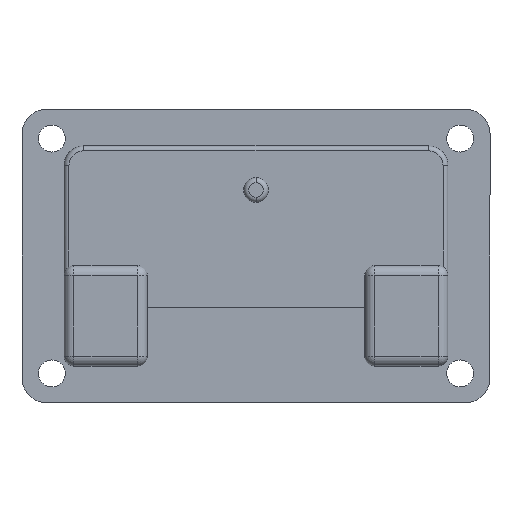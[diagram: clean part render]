
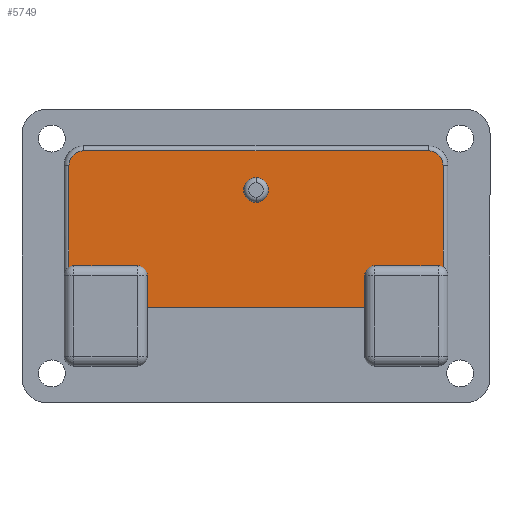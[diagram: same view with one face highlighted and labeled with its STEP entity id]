
A CAD part, front view. The second image highlights one B-rep face of the part: STEP entity #5749.
In plain terms, the highlighted planar face has unit normal (0, -1, 0).
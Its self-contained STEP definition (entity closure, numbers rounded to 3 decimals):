
#3 = VERTEX_POINT ( 'NONE', #8929 ) ;
#4 = LINE ( 'NONE', #9877, #3733 ) ;
#15 = VECTOR ( 'NONE', #4053, 1000. ) ;
#21 = ORIENTED_EDGE ( 'NONE', *, *, #3438, .F. ) ;
#65 = CARTESIAN_POINT ( 'NONE',  ( 35.25, -5.5, 18.5 ) ) ;
#144 = DIRECTION ( 'NONE',  ( 0., 0., 1. ) ) ;
#195 = AXIS2_PLACEMENT_3D ( 'NONE', #4791, #1677, #712 ) ;
#283 = ORIENTED_EDGE ( 'NONE', *, *, #12238, .T. ) ;
#355 = DIRECTION ( 'NONE',  ( 0., 0., 1. ) ) ;
#378 = CARTESIAN_POINT ( 'NONE',  ( 38.25, -5.5, 18.5 ) ) ;
#418 = ORIENTED_EDGE ( 'NONE', *, *, #1695, .T. ) ;
#582 = CARTESIAN_POINT ( 'NONE',  ( -35.25, -5.5, 18.5 ) ) ;
#607 = CARTESIAN_POINT ( 'NONE',  ( 37.25, -5.5, -2. ) ) ;
#712 = DIRECTION ( 'NONE',  ( 0., 0., 1. ) ) ;
#846 = VECTOR ( 'NONE', #5961, 1000. ) ;
#948 = EDGE_CURVE ( 'NONE', #5834, #3, #9982, .T. ) ;
#1011 = DIRECTION ( 'NONE',  ( 0., 0., 1. ) ) ;
#1014 = DIRECTION ( 'NONE',  ( 0., 1., 0. ) ) ;
#1220 = DIRECTION ( 'NONE',  ( -1., 0., 0. ) ) ;
#1290 = CARTESIAN_POINT ( 'NONE',  ( -35.25, -5.5, 21.5 ) ) ;
#1371 = DIRECTION ( 'NONE',  ( 0., 0., 1. ) ) ;
#1453 = CIRCLE ( 'NONE', #195, 2. ) ;
#1512 = EDGE_CURVE ( 'NONE', #11085, #11320, #5589, .T. ) ;
#1618 = EDGE_CURVE ( 'NONE', #3101, #3196, #10120, .T. ) ;
#1677 = DIRECTION ( 'NONE',  ( 0., 1., 0. ) ) ;
#1695 = EDGE_CURVE ( 'NONE', #10285, #6065, #4, .T. ) ;
#1759 = EDGE_CURVE ( 'NONE', #3196, #11085, #10068, .T. ) ;
#1819 = ORIENTED_EDGE ( 'NONE', *, *, #3035, .F. ) ;
#1960 = ORIENTED_EDGE ( 'NONE', *, *, #3697, .T. ) ;
#2234 = CARTESIAN_POINT ( 'NONE',  ( 0., -5.5, 11. ) ) ;
#2519 = DIRECTION ( 'NONE',  ( 0., 0., 1. ) ) ;
#2533 = FACE_OUTER_BOUND ( 'NONE', #12682, .T. ) ;
#2662 = VERTEX_POINT ( 'NONE', #2234 ) ;
#2711 = AXIS2_PLACEMENT_3D ( 'NONE', #8148, #9119, #1371 ) ;
#2913 = ORIENTED_EDGE ( 'NONE', *, *, #7745, .T. ) ;
#3035 = EDGE_CURVE ( 'NONE', #5834, #6065, #5945, .T. ) ;
#3101 = VERTEX_POINT ( 'NONE', #378 ) ;
#3119 = CIRCLE ( 'NONE', #2711, 2.5 ) ;
#3134 = CARTESIAN_POINT ( 'NONE',  ( 22.25, -5.5, 0. ) ) ;
#3162 = EDGE_CURVE ( 'NONE', #3, #6132, #7633, .T. ) ;
#3196 = VERTEX_POINT ( 'NONE', #9368 ) ;
#3324 = AXIS2_PLACEMENT_3D ( 'NONE', #65, #7817, #9035 ) ;
#3438 = EDGE_CURVE ( 'NONE', #2662, #9790, #3119, .T. ) ;
#3454 = ORIENTED_EDGE ( 'NONE', *, *, #948, .T. ) ;
#3568 = AXIS2_PLACEMENT_3D ( 'NONE', #9631, #6469, #3622 ) ;
#3605 = CARTESIAN_POINT ( 'NONE',  ( 24.25, -5.5, -2. ) ) ;
#3622 = DIRECTION ( 'NONE',  ( 0., 0., 1. ) ) ;
#3697 = EDGE_CURVE ( 'NONE', #6057, #8745, #5653, .T. ) ;
#3733 = VECTOR ( 'NONE', #10005, 1000. ) ;
#3940 = EDGE_CURVE ( 'NONE', #9790, #2662, #6424, .T. ) ;
#4048 = AXIS2_PLACEMENT_3D ( 'NONE', #6113, #6047, #1011 ) ;
#4053 = DIRECTION ( 'NONE',  ( 1., 0., 0. ) ) ;
#4112 = CARTESIAN_POINT ( 'NONE',  ( 0., -5.5, -2. ) ) ;
#4124 = CARTESIAN_POINT ( 'NONE',  ( -37.25, -5.5, -2. ) ) ;
#4200 = EDGE_CURVE ( 'NONE', #6132, #5055, #7165, .T. ) ;
#4356 = ORIENTED_EDGE ( 'NONE', *, *, #3940, .F. ) ;
#4767 = EDGE_CURVE ( 'NONE', #8745, #10285, #9624, .T. ) ;
#4790 = ORIENTED_EDGE ( 'NONE', *, *, #9020, .T. ) ;
#4791 = CARTESIAN_POINT ( 'NONE',  ( -37.25, -5.5, -4. ) ) ;
#4868 = LINE ( 'NONE', #5893, #11954 ) ;
#5055 = VERTEX_POINT ( 'NONE', #607 ) ;
#5170 = CIRCLE ( 'NONE', #11760, 2. ) ;
#5303 = CARTESIAN_POINT ( 'NONE',  ( -22.25, -5.5, -10.5 ) ) ;
#5366 = CARTESIAN_POINT ( 'NONE',  ( -38.25, -5.5, -2.268 ) ) ;
#5427 = DIRECTION ( 'NONE',  ( 0., 1., 0. ) ) ;
#5589 = CIRCLE ( 'NONE', #9915, 3. ) ;
#5653 = LINE ( 'NONE', #9778, #846 ) ;
#5749 = ADVANCED_FACE ( 'NONE', ( #9384, #2533 ), #11633, .F. ) ;
#5834 = VERTEX_POINT ( 'NONE', #9567 ) ;
#5893 = CARTESIAN_POINT ( 'NONE',  ( -38.25, -5.5, -4. ) ) ;
#5945 = LINE ( 'NONE', #8915, #6803 ) ;
#5961 = DIRECTION ( 'NONE',  ( 1., 0., 0. ) ) ;
#5984 = ORIENTED_EDGE ( 'NONE', *, *, #1759, .T. ) ;
#6047 = DIRECTION ( 'NONE',  ( 0., 1., 0. ) ) ;
#6050 = CARTESIAN_POINT ( 'NONE',  ( 37.25, -5.5, -4. ) ) ;
#6057 = VERTEX_POINT ( 'NONE', #4124 ) ;
#6065 = VERTEX_POINT ( 'NONE', #5303 ) ;
#6092 = DIRECTION ( 'NONE',  ( 0., -1., 0. ) ) ;
#6113 = CARTESIAN_POINT ( 'NONE',  ( -24.25, -5.5, -4. ) ) ;
#6132 = VERTEX_POINT ( 'NONE', #3605 ) ;
#6424 = CIRCLE ( 'NONE', #7874, 2.5 ) ;
#6469 = DIRECTION ( 'NONE',  ( 0., 1., 0. ) ) ;
#6803 = VECTOR ( 'NONE', #7819, 1000. ) ;
#6996 = VERTEX_POINT ( 'NONE', #5366 ) ;
#7016 = CARTESIAN_POINT ( 'NONE',  ( 0., -5.5, 16. ) ) ;
#7017 = DIRECTION ( 'NONE',  ( 0., 0., 1. ) ) ;
#7165 = LINE ( 'NONE', #4112, #15 ) ;
#7633 = CIRCLE ( 'NONE', #9072, 2. ) ;
#7745 = EDGE_CURVE ( 'NONE', #10676, #3101, #8175, .T. ) ;
#7817 = DIRECTION ( 'NONE',  ( 0., -1., 0. ) ) ;
#7819 = DIRECTION ( 'NONE',  ( -1., 0., 0. ) ) ;
#7874 = AXIS2_PLACEMENT_3D ( 'NONE', #10225, #6092, #144 ) ;
#7959 = VECTOR ( 'NONE', #7017, 1000. ) ;
#7977 = ORIENTED_EDGE ( 'NONE', *, *, #4200, .T. ) ;
#8065 = VECTOR ( 'NONE', #1220, 1000. ) ;
#8148 = CARTESIAN_POINT ( 'NONE',  ( 0., -5.5, 13.5 ) ) ;
#8175 = LINE ( 'NONE', #12116, #8371 ) ;
#8228 = ORIENTED_EDGE ( 'NONE', *, *, #4767, .T. ) ;
#8336 = EDGE_CURVE ( 'NONE', #6996, #6057, #1453, .T. ) ;
#8371 = VECTOR ( 'NONE', #355, 1000. ) ;
#8474 = ORIENTED_EDGE ( 'NONE', *, *, #1512, .T. ) ;
#8532 = DIRECTION ( 'NONE',  ( 0., 0., 1. ) ) ;
#8543 = CARTESIAN_POINT ( 'NONE',  ( -35.25, -5.5, 21.5 ) ) ;
#8745 = VERTEX_POINT ( 'NONE', #11227 ) ;
#8791 = ORIENTED_EDGE ( 'NONE', *, *, #8336, .T. ) ;
#8833 = DIRECTION ( 'NONE',  ( 0., 0., 1. ) ) ;
#8915 = CARTESIAN_POINT ( 'NONE',  ( 0., -5.5, -10.5 ) ) ;
#8929 = CARTESIAN_POINT ( 'NONE',  ( 22.25, -5.5, -4. ) ) ;
#9020 = EDGE_CURVE ( 'NONE', #5055, #10676, #5170, .T. ) ;
#9035 = DIRECTION ( 'NONE',  ( 0., 0., 1. ) ) ;
#9072 = AXIS2_PLACEMENT_3D ( 'NONE', #10331, #5427, #2519 ) ;
#9119 = DIRECTION ( 'NONE',  ( 0., -1., 0. ) ) ;
#9368 = CARTESIAN_POINT ( 'NONE',  ( 35.25, -5.5, 21.5 ) ) ;
#9384 = FACE_BOUND ( 'NONE', #12420, .T. ) ;
#9567 = CARTESIAN_POINT ( 'NONE',  ( 22.25, -5.5, -10.5 ) ) ;
#9624 = CIRCLE ( 'NONE', #4048, 2. ) ;
#9631 = CARTESIAN_POINT ( 'NONE',  ( 0., -5.5, 0. ) ) ;
#9778 = CARTESIAN_POINT ( 'NONE',  ( 0., -5.5, -2. ) ) ;
#9790 = VERTEX_POINT ( 'NONE', #7016 ) ;
#9877 = CARTESIAN_POINT ( 'NONE',  ( -22.25, -5.5, 0. ) ) ;
#9915 = AXIS2_PLACEMENT_3D ( 'NONE', #582, #11564, #8532 ) ;
#9923 = CARTESIAN_POINT ( 'NONE',  ( 38.25, -5.5, -2.268 ) ) ;
#9982 = LINE ( 'NONE', #3134, #7959 ) ;
#10005 = DIRECTION ( 'NONE',  ( 0., 0., -1. ) ) ;
#10068 = LINE ( 'NONE', #1290, #8065 ) ;
#10120 = CIRCLE ( 'NONE', #3324, 3. ) ;
#10225 = CARTESIAN_POINT ( 'NONE',  ( 0., -5.5, 13.5 ) ) ;
#10285 = VERTEX_POINT ( 'NONE', #11636 ) ;
#10331 = CARTESIAN_POINT ( 'NONE',  ( 24.25, -5.5, -4. ) ) ;
#10676 = VERTEX_POINT ( 'NONE', #9923 ) ;
#10732 = DIRECTION ( 'NONE',  ( 0., 0., -1. ) ) ;
#11085 = VERTEX_POINT ( 'NONE', #8543 ) ;
#11227 = CARTESIAN_POINT ( 'NONE',  ( -24.25, -5.5, -2. ) ) ;
#11320 = VERTEX_POINT ( 'NONE', #11820 ) ;
#11564 = DIRECTION ( 'NONE',  ( 0., -1., 0. ) ) ;
#11633 = PLANE ( 'NONE',  #3568 ) ;
#11636 = CARTESIAN_POINT ( 'NONE',  ( -22.25, -5.5, -4. ) ) ;
#11760 = AXIS2_PLACEMENT_3D ( 'NONE', #6050, #1014, #8833 ) ;
#11820 = CARTESIAN_POINT ( 'NONE',  ( -38.25, -5.5, 18.5 ) ) ;
#11954 = VECTOR ( 'NONE', #10732, 1000. ) ;
#12116 = CARTESIAN_POINT ( 'NONE',  ( 38.25, -5.5, 18.5 ) ) ;
#12166 = ORIENTED_EDGE ( 'NONE', *, *, #3162, .T. ) ;
#12238 = EDGE_CURVE ( 'NONE', #11320, #6996, #4868, .T. ) ;
#12420 = EDGE_LOOP ( 'NONE', ( #4356, #21 ) ) ;
#12682 = EDGE_LOOP ( 'NONE', ( #8474, #283, #8791, #1960, #8228, #418, #1819, #3454, #12166, #7977, #4790, #2913, #12701, #5984 ) ) ;
#12701 = ORIENTED_EDGE ( 'NONE', *, *, #1618, .T. ) ;
